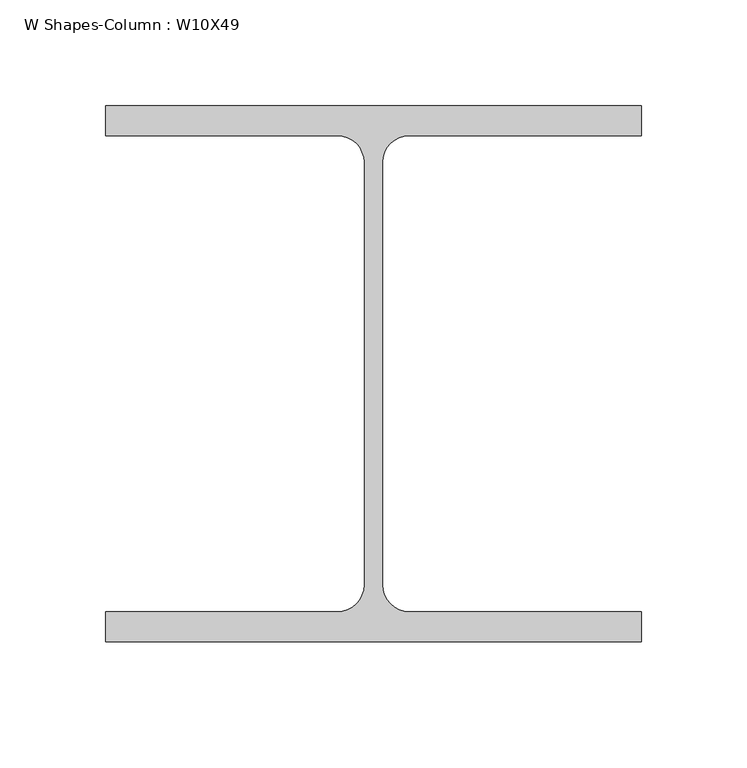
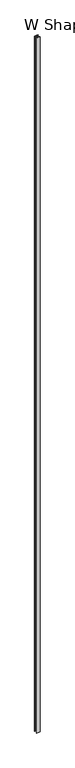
"""IFC4 building model written with IfcOpenShell, lengths in millimetres: column geometry, W Shapes-Column : W10X49."""

from ifc_helpers import new_model, si_unit, point, frame, frame_2d, origin, place, context, project, spatial, polyline, circle_curve, trimmed, segment, composite_curve, outline, extrude, source, transform, mapped, element, save


def w_shapes_column_w10x49_1ba87946(model_context):
    return source(origin(), model_context, "Body", "SweptSolid", [
        extrude(outline(composite_curve([segment(polyline([(127.0, 127.0), (127.0, 112.776), (17.018, 112.776)]), True, "CONTINUOUS"), segment(trimmed(circle_curve(frame_2d((17.018, 100.076)), 12.7), [point((17.018, 112.776))], [point((4.318, 100.076))], True, "CARTESIAN"), True, "CONTINUOUS"), segment(polyline([(4.318, 100.076), (4.318, -100.076)]), True, "CONTINUOUS"), segment(trimmed(circle_curve(frame_2d((17.018, -100.076)), 12.7), [point((4.318, -100.076))], [point((17.018, -112.776))], True, "CARTESIAN"), True, "CONTINUOUS"), segment(polyline([(17.018, -112.776), (127.0, -112.776), (127.0, -127.0), (-127.0, -127.0), (-127.0, -112.776), (-17.018, -112.776)]), True, "CONTINUOUS"), segment(trimmed(circle_curve(frame_2d((-17.018, -100.076)), 12.7), [point((-17.018, -112.776))], [point((-4.318, -100.076))], True, "CARTESIAN"), True, "CONTINUOUS"), segment(polyline([(-4.318, -100.076), (-4.318, 100.076)]), True, "CONTINUOUS"), segment(trimmed(circle_curve(frame_2d((-17.018, 100.076)), 12.7), [point((-4.318, 100.076))], [point((-17.018, 112.776))], True, "CARTESIAN"), True, "CONTINUOUS"), segment(polyline([(-17.018, 112.776), (-127.0, 112.776), (-127.0, 127.0), (127.0, 127.0)]), True, "CONTINUOUS")], self_intersect=False)), frame((0.0, 0.0, -15240.0), z_axis=(0.0, 0.0, 1.0), x_axis=(1.0, 0.0, 0.0)), (0.0, 0.0, 1.0), 56235.6),
    ])


if __name__ == "__main__":
    model = new_model("IFC4")
    model_context = context("Model", 3, world=origin())
    ifc_project = project(units=[si_unit("LENGTHUNIT", "METRE", prefix="MILLI")], contexts=[model_context])
    site = spatial("IfcSite", under=ifc_project)
    building = spatial("IfcBuilding", under=site)
    placement = place(None, origin())
    w_shapes_column_w10x49_shape = w_shapes_column_w10x49_1ba87946(model_context)
    element("IfcColumn", 1, ObjectType="W Shapes-Column : W10X49", at=placement, inside=building, context=model_context, shape_type="MappedRepresentation", body=[
        mapped(w_shapes_column_w10x49_shape, transform((0.0, 0.0, 0.0), x_axis=(1.0, 0.0, 0.0), y_axis=(0.0, 1.0, 0.0), z_axis=(0.0, 0.0, 1.0))),
    ])
    save(model, "model.ifc")
